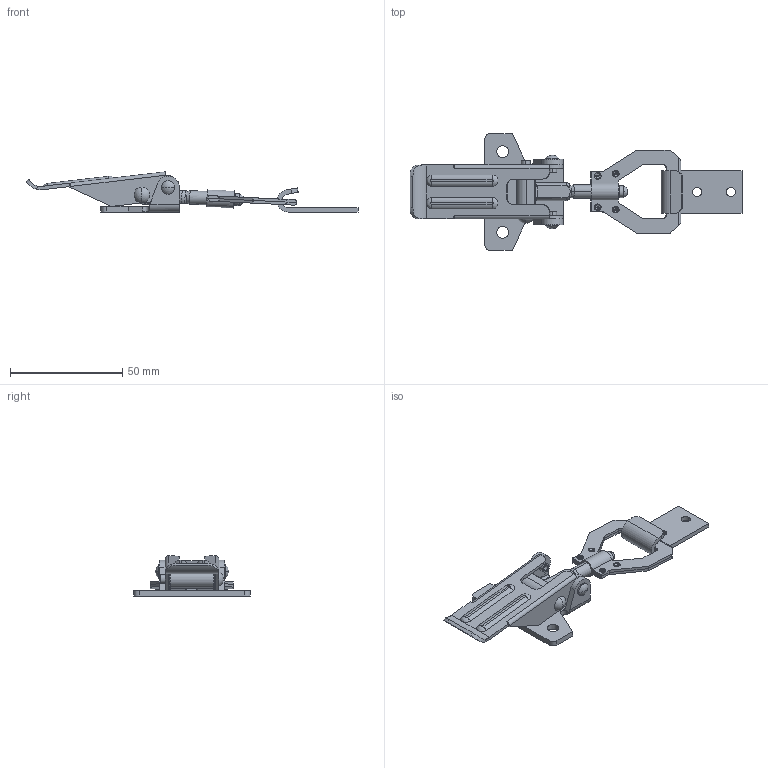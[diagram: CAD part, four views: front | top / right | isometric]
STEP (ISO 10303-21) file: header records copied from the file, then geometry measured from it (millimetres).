
FILE_DESCRIPTION(('Creo Elements/Direct Modeling STEP Export'),'2;1');
FILE_NAME('41007001051.stp','2026-06-12T14:18:46',(''),(''),'Creo Elements/Direct Modeling STEP processor for AP214 (Solid Model)','Creo Elements/Direct Modeling 20.8A 08-Nov-2025 (C) Parametric Technology GmbH','');
FILE_SCHEMA(('AUTOMOTIVE_DESIGN { 1 0 10303 214 1 1 1 1 }'));
Length unit declared in the file: millimetre
Products named in the file (16): 2.05.00.00-1; LEV000061_A; BAS000067_A; BAS000070_A; RIV000015_A.1; RIV000011_A; FBG000008; FBG000008_B; 2.05.00.00-4; FBG000078_A; 2.05.00.00-23; 2050001-23.1; CHR000063_A.1; RSC000030_00; RSC000033_00; 41007001051
Assembly tree (16 placements, depth 5):
  41007001051
    RSC000033_00
      RSC000030_00
    CHR000063_A.1
      2050001-23.1
        2.05.00.00-23
      FBG000078_A
        2.05.00.00-4
          FBG000008_B
          FBG000008
      RIV000015_A.1  x2
      RIV000011_A
      BAS000070_A
        BAS000067_A
      LEV000061_A
        2.05.00.00-1
Bounding box: 147.76 x 52 x 17.89 mm (x, y, z)
Volume: 13305.1 mm3; surface area: 16688.7 mm2
Topology: 9 solids, 9 shells, 312 faces, 842 edges, 552 vertices
Faces by surface type: cylinder 123, plane 113, torus 48, cone 22, sphere 6
Entity records: 10390 total; most frequent: CARTESIAN_POINT 2549, ORIENTED_EDGE 1612, DIRECTION 1568, EDGE_CURVE 806, AXIS2_PLACEMENT_3D 602, VERTEX_POINT 536, VECTOR 364, LINE 364
